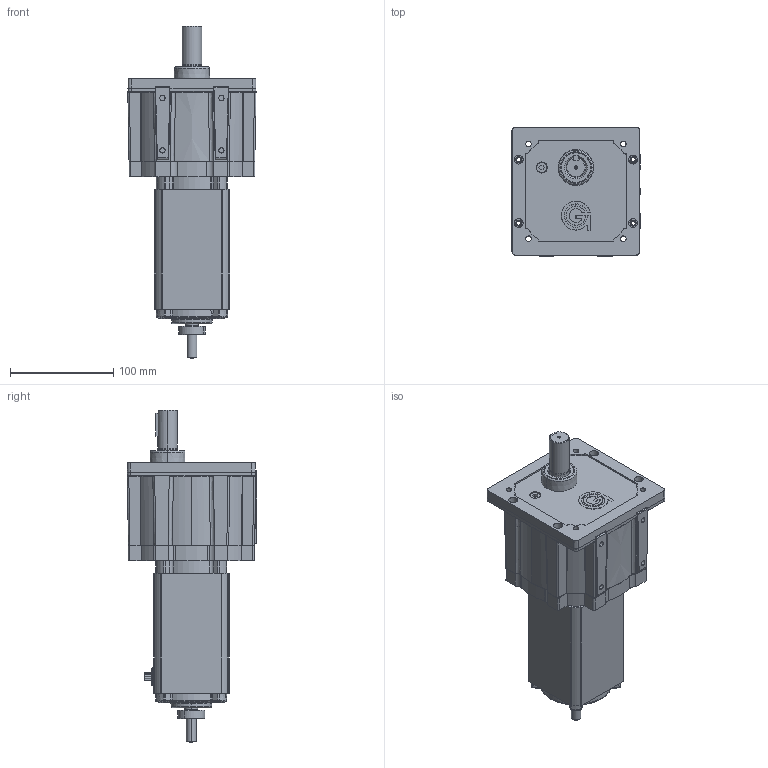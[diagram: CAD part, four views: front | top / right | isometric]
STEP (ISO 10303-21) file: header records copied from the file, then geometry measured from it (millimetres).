
FILE_DESCRIPTION (( 'STEP AP214' ), '1' );
FILE_NAME ('BL6560-PS2300.STEP', '2016-05-04T16:00:55', ( '' ), ( '' ), 'SwSTEP 2.0', 'SolidWorks 2015', '' );
FILE_SCHEMA (( 'AUTOMOTIVE_DESIGN' ));
Length unit declared in the file: millimetre
Products named in the file (1): BL6560-PS2300
Bounding box: 124.55 x 125.69 x 322.07 mm (x, y, z)
Surface area: 177042.7 mm2 (no closed solid volume)
Topology: 0 solids, 78 shells, 863 faces, 2949 edges, 2113 vertices
Faces by surface type: cylinder 306, plane 256, cone 127, torus 100, bspline 64, sphere 10
Entity records: 46623 total; most frequent: CARTESIAN_POINT 12332, DIRECTION 5157, ORIENTED_EDGE 4789, EDGE_CURVE 2947, VERTEX_POINT 2113, AXIS2_PLACEMENT_3D 1934, LINE 1289, VECTOR 1289
